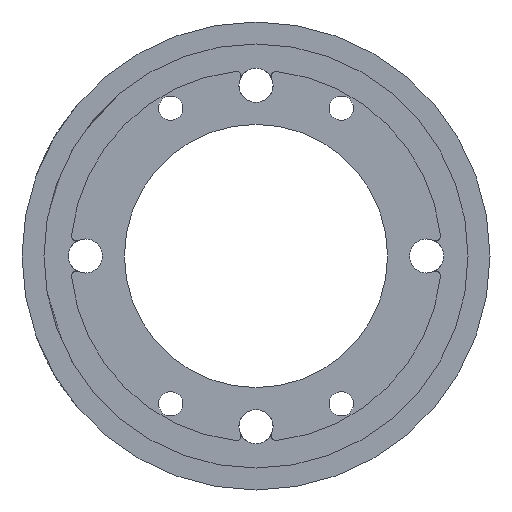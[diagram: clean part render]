
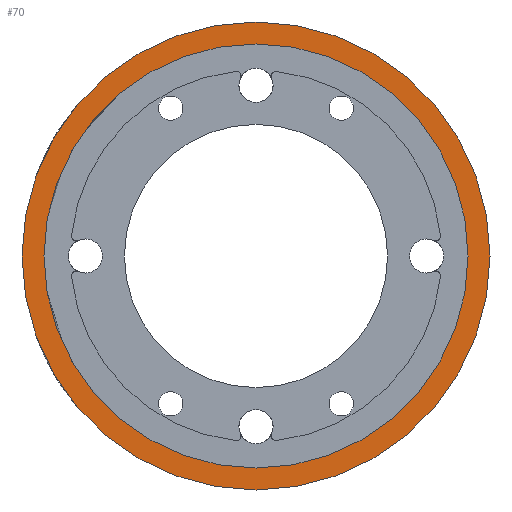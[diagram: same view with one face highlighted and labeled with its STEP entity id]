
A CAD part, front view. The second image highlights one B-rep face of the part: STEP entity #70.
In plain terms, the highlighted planar face has unit normal (0, -1, 0).
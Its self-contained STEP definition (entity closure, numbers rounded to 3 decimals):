
#70 = ADVANCED_FACE ( 'NONE', ( #813, #1265 ), #1086, .T. ) ;
#75 = AXIS2_PLACEMENT_3D ( 'NONE', #1728, #408, #464 ) ;
#91 = VERTEX_POINT ( 'NONE', #1824 ) ;
#202 = CARTESIAN_POINT ( 'NONE',  ( 0., -7., 0. ) ) ;
#217 = DIRECTION ( 'NONE',  ( 0., -1., 0. ) ) ;
#408 = DIRECTION ( 'NONE',  ( 0., -1., 0. ) ) ;
#464 = DIRECTION ( 'NONE',  ( 0., 0., -1. ) ) ;
#481 = EDGE_CURVE ( 'NONE', #608, #1383, #1103, .T. ) ;
#486 = CARTESIAN_POINT ( 'NONE',  ( 0., -7., -21.75 ) ) ;
#504 = DIRECTION ( 'NONE',  ( 0., 0., -1. ) ) ;
#520 = CARTESIAN_POINT ( 'NONE',  ( 0., -7., 0. ) ) ;
#522 = EDGE_CURVE ( 'NONE', #91, #1515, #981, .T. ) ;
#578 = ORIENTED_EDGE ( 'NONE', *, *, #481, .F. ) ;
#608 = VERTEX_POINT ( 'NONE', #486 ) ;
#646 = CARTESIAN_POINT ( 'NONE',  ( 21.75, -7., 0. ) ) ;
#705 = ORIENTED_EDGE ( 'NONE', *, *, #762, .T. ) ;
#762 = EDGE_CURVE ( 'NONE', #1515, #91, #1295, .T. ) ;
#789 = CARTESIAN_POINT ( 'NONE',  ( 0., -7., 0. ) ) ;
#813 = FACE_OUTER_BOUND ( 'NONE', #1691, .T. ) ;
#900 = ORIENTED_EDGE ( 'NONE', *, *, #1315, .F. ) ;
#958 = AXIS2_PLACEMENT_3D ( 'NONE', #646, #1393, #1830 ) ;
#981 = CIRCLE ( 'NONE', #994, 24. ) ;
#994 = AXIS2_PLACEMENT_3D ( 'NONE', #789, #1654, #1809 ) ;
#1086 = PLANE ( 'NONE',  #958 ) ;
#1103 = CIRCLE ( 'NONE', #1281, 21.75 ) ;
#1173 = CARTESIAN_POINT ( 'NONE',  ( 0., -7., -24. ) ) ;
#1255 = CARTESIAN_POINT ( 'NONE',  ( 0., -7., 21.75 ) ) ;
#1265 = FACE_BOUND ( 'NONE', #1642, .T. ) ;
#1281 = AXIS2_PLACEMENT_3D ( 'NONE', #202, #1832, #504 ) ;
#1295 = CIRCLE ( 'NONE', #75, 24. ) ;
#1315 = EDGE_CURVE ( 'NONE', #1383, #608, #1519, .T. ) ;
#1383 = VERTEX_POINT ( 'NONE', #1255 ) ;
#1393 = DIRECTION ( 'NONE',  ( 0., -1., 0. ) ) ;
#1437 = AXIS2_PLACEMENT_3D ( 'NONE', #520, #217, #1843 ) ;
#1515 = VERTEX_POINT ( 'NONE', #1173 ) ;
#1519 = CIRCLE ( 'NONE', #1437, 21.75 ) ;
#1642 = EDGE_LOOP ( 'NONE', ( #578, #900 ) ) ;
#1654 = DIRECTION ( 'NONE',  ( 0., -1., 0. ) ) ;
#1691 = EDGE_LOOP ( 'NONE', ( #705, #1815 ) ) ;
#1728 = CARTESIAN_POINT ( 'NONE',  ( 0., -7., 0. ) ) ;
#1809 = DIRECTION ( 'NONE',  ( 0., 0., -1. ) ) ;
#1815 = ORIENTED_EDGE ( 'NONE', *, *, #522, .T. ) ;
#1824 = CARTESIAN_POINT ( 'NONE',  ( 0., -7., 24. ) ) ;
#1830 = DIRECTION ( 'NONE',  ( 0., 0., -1. ) ) ;
#1832 = DIRECTION ( 'NONE',  ( 0., -1., 0. ) ) ;
#1843 = DIRECTION ( 'NONE',  ( 0., 0., -1. ) ) ;
